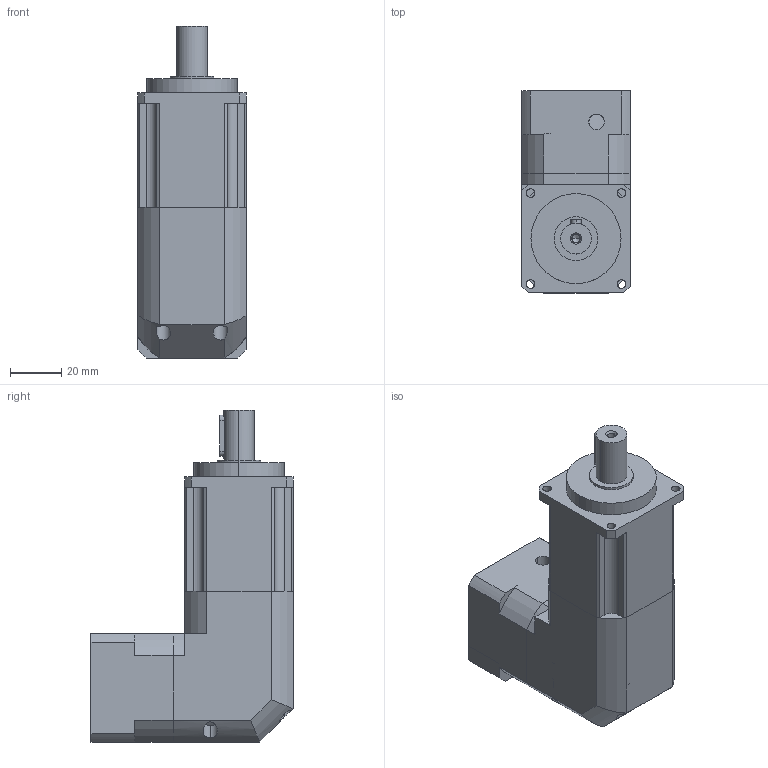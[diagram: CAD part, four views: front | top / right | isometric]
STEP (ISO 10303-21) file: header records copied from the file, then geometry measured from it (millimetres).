
FILE_DESCRIPTION (( 'STEP AP214' ), '1' );
FILE_NAME ('PAR042-L2-S2-P1 8-30-46-M4.STEP', '2024-08-03T03:35:30', ( '微软用户' ), ( '微软中国' ), 'SwSTEP 2.0', 'SolidWorks 2021', '' );
FILE_SCHEMA (( 'AUTOMOTIVE_DESIGN' ));
Length unit declared in the file: millimetre
Products named in the file (4): YB42________.STEP; ____1-2.STEP; PAR042-L2-S2-P1 8-30-46-M4; ________2022.3.27.STEP
Assembly tree (3 placements, depth 2):
  PAR042-L2-S2-P1 8-30-46-M4
    ____1-2.STEP
    ________2022.3.27.STEP
    YB42________.STEP
Bounding box: 42 x 78.5 x 129 mm (x, y, z)
Volume: 227089 mm3; surface area: 39490.6 mm2
Topology: 3 solids, 5 shells, 218 faces, 556 edges, 356 vertices
Faces by surface type: cylinder 135, plane 66, cone 17
Entity records: 9584 total; most frequent: CARTESIAN_POINT 1762, DIRECTION 1178, ORIENTED_EDGE 1082, EDGE_CURVE 541, AXIS2_PLACEMENT_3D 460, VERTEX_POINT 356, EDGE_LOOP 261, LINE 258
